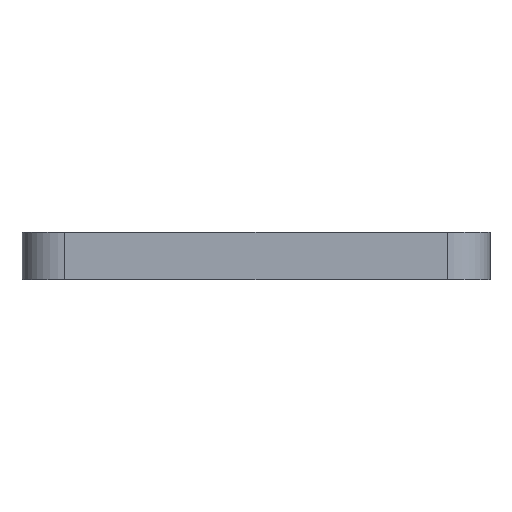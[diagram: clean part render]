
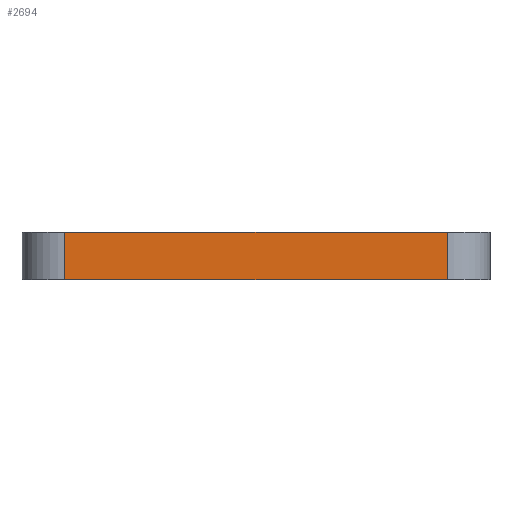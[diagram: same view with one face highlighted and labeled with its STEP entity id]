
A CAD part, front view. The second image highlights one B-rep face of the part: STEP entity #2694.
In plain terms, the highlighted planar face has unit normal (0, -1, 0).
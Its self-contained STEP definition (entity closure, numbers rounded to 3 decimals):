
#609=ORIENTED_EDGE('',*,*,#1304,.T.);
#610=ORIENTED_EDGE('',*,*,#1305,.F.);
#611=ORIENTED_EDGE('',*,*,#1212,.F.);
#612=ORIENTED_EDGE('',*,*,#1306,.T.);
#1212=EDGE_CURVE('',#1576,#1578,#1819,.T.);
#1304=EDGE_CURVE('',#1665,#1666,#1854,.T.);
#1305=EDGE_CURVE('',#1578,#1666,#1855,.T.);
#1306=EDGE_CURVE('',#1576,#1665,#1856,.T.);
#1576=VERTEX_POINT('',#4304);
#1578=VERTEX_POINT('',#4307);
#1665=VERTEX_POINT('',#4489);
#1666=VERTEX_POINT('',#4490);
#1819=LINE('',#4306,#2035);
#1854=LINE('',#4488,#2070);
#1855=LINE('',#4491,#2071);
#1856=LINE('',#4492,#2072);
#2035=VECTOR('',#3439,1000.);
#2070=VECTOR('',#3594,1000.);
#2071=VECTOR('',#3595,1000.);
#2072=VECTOR('',#3596,1000.);
#2264=EDGE_LOOP('',(#609,#610,#611,#612));
#2460=FACE_BOUND('',#2264,.T.);
#2603=PLANE('',#2980);
#2694=ADVANCED_FACE('',(#2460),#2603,.F.);
#2980=AXIS2_PLACEMENT_3D('',#4487,#3592,#3593);
#3439=DIRECTION('',(1.,0.,0.));
#3592=DIRECTION('',(0.,1.,0.));
#3593=DIRECTION('',(0.,0.,1.));
#3594=DIRECTION('',(1.,0.,0.));
#3595=DIRECTION('',(0.,0.,-1.));
#3596=DIRECTION('',(0.,0.,-1.));
#4304=CARTESIAN_POINT('',(-16.,-3.6,4.));
#4306=CARTESIAN_POINT('',(0.,-3.6,4.));
#4307=CARTESIAN_POINT('',(16.,-3.6,4.));
#4487=CARTESIAN_POINT('',(0.,-3.6,4.));
#4488=CARTESIAN_POINT('',(0.,-3.6,0.));
#4489=CARTESIAN_POINT('',(-16.,-3.6,0.));
#4490=CARTESIAN_POINT('',(16.,-3.6,0.));
#4491=CARTESIAN_POINT('',(16.,-3.6,4.));
#4492=CARTESIAN_POINT('',(-16.,-3.6,4.));
